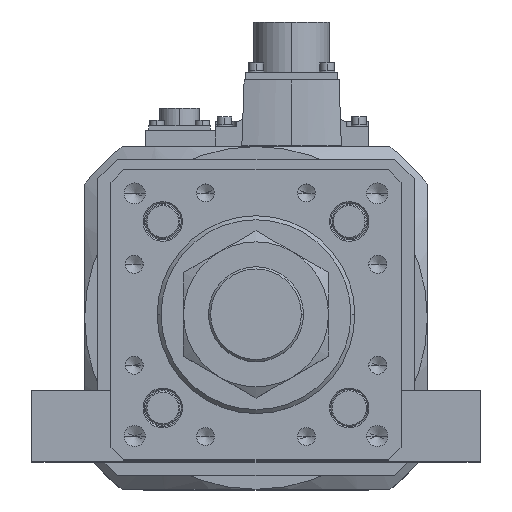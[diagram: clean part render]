
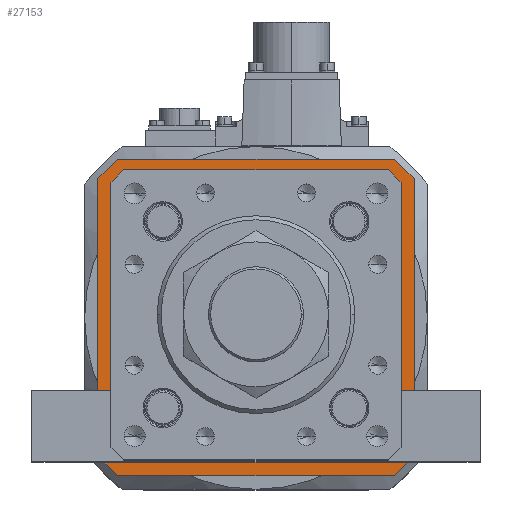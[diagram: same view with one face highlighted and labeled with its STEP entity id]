
A CAD part, top view. The second image highlights one B-rep face of the part: STEP entity #27153.
In plain terms, the highlighted planar face has unit normal (0, 0, 1) as drawn and (0, 0, -1) by its records, which use the part's own axes.
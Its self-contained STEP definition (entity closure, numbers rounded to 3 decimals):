
#186 = VECTOR ( 'NONE', #26505, 1000. ) ;
#686 = EDGE_CURVE ( 'NONE', #18717, #6783, #18429, .T. ) ;
#964 = CARTESIAN_POINT ( 'NONE',  ( -49.593, -53.5, 52. ) ) ;
#1117 = LINE ( 'NONE', #20513, #186 ) ;
#1632 = VECTOR ( 'NONE', #13933, 1000. ) ;
#1815 = ORIENTED_EDGE ( 'NONE', *, *, #19616, .T. ) ;
#1866 = VERTEX_POINT ( 'NONE', #10581 ) ;
#2046 = ORIENTED_EDGE ( 'NONE', *, *, #25381, .T. ) ;
#2291 = CARTESIAN_POINT ( 'NONE',  ( 51.546, 51.546, 52. ) ) ;
#2571 = CARTESIAN_POINT ( 'NONE',  ( -53.5, -49.8, 52. ) ) ;
#3427 = LINE ( 'NONE', #2291, #32094 ) ;
#3434 = DIRECTION ( 'NONE',  ( 0., 0., 1. ) ) ;
#3868 = ORIENTED_EDGE ( 'NONE', *, *, #12443, .F. ) ;
#4225 = DIRECTION ( 'NONE',  ( 1., 0., 0. ) ) ;
#4388 = VECTOR ( 'NONE', #9188, 1000. ) ;
#5421 = VECTOR ( 'NONE', #25141, 1000. ) ;
#5608 = FACE_BOUND ( 'NONE', #38674, .T. ) ;
#5869 = LINE ( 'NONE', #28845, #1632 ) ;
#6084 = CARTESIAN_POINT ( 'NONE',  ( 49.593, 53.5, 52. ) ) ;
#6292 = VERTEX_POINT ( 'NONE', #6570 ) ;
#6457 = CARTESIAN_POINT ( 'NONE',  ( 51.546, -51.546, 52. ) ) ;
#6570 = CARTESIAN_POINT ( 'NONE',  ( -60., 52.5, 52. ) ) ;
#6576 = EDGE_CURVE ( 'NONE', #19108, #18717, #25819, .T. ) ;
#6783 = VERTEX_POINT ( 'NONE', #32563 ) ;
#6833 = VECTOR ( 'NONE', #20873, 1000. ) ;
#6851 = ORIENTED_EDGE ( 'NONE', *, *, #21344, .T. ) ;
#7145 = VERTEX_POINT ( 'NONE', #22284 ) ;
#7194 = VECTOR ( 'NONE', #24340, 1000. ) ;
#7972 = DIRECTION ( 'NONE',  ( 0.707, -0.707, 0. ) ) ;
#8646 = VERTEX_POINT ( 'NONE', #12864 ) ;
#9093 = CARTESIAN_POINT ( 'NONE',  ( -53.5, -49.593, 52. ) ) ;
#9188 = DIRECTION ( 'NONE',  ( -0.707, -0.707, 0. ) ) ;
#9420 = ORIENTED_EDGE ( 'NONE', *, *, #12065, .T. ) ;
#9460 = ORIENTED_EDGE ( 'NONE', *, *, #23754, .T. ) ;
#9495 = EDGE_CURVE ( 'NONE', #8646, #32629, #30002, .T. ) ;
#9983 = LINE ( 'NONE', #31647, #20795 ) ;
#10581 = CARTESIAN_POINT ( 'NONE',  ( -60., -52.5, 52. ) ) ;
#10897 = EDGE_CURVE ( 'NONE', #6292, #1866, #32198, .T. ) ;
#12065 = EDGE_CURVE ( 'NONE', #32629, #31832, #3427, .T. ) ;
#12196 = CARTESIAN_POINT ( 'NONE',  ( -49.8, 53.5, 52. ) ) ;
#12443 = EDGE_CURVE ( 'NONE', #31648, #33289, #9983, .T. ) ;
#12482 = VECTOR ( 'NONE', #17983, 1000. ) ;
#12864 = CARTESIAN_POINT ( 'NONE',  ( 53.5, -49.593, 52. ) ) ;
#13933 = DIRECTION ( 'NONE',  ( -0.707, 0.707, 0. ) ) ;
#14278 = CARTESIAN_POINT ( 'NONE',  ( 53.5, 49.8, 52. ) ) ;
#14565 = DIRECTION ( 'NONE',  ( 0.707, -0.707, 0. ) ) ;
#14972 = VECTOR ( 'NONE', #19646, 1000. ) ;
#15391 = PLANE ( 'NONE',  #24873 ) ;
#15466 = CARTESIAN_POINT ( 'NONE',  ( 60., -52.5, 52. ) ) ;
#15628 = ORIENTED_EDGE ( 'NONE', *, *, #9495, .T. ) ;
#17027 = CARTESIAN_POINT ( 'NONE',  ( -52.5, 60., 52. ) ) ;
#17449 = CARTESIAN_POINT ( 'NONE',  ( -49.593, 53.5, 52. ) ) ;
#17542 = DIRECTION ( 'NONE',  ( 0., -1., 0. ) ) ;
#17694 = LINE ( 'NONE', #26740, #6833 ) ;
#17825 = FACE_OUTER_BOUND ( 'NONE', #37284, .T. ) ;
#17983 = DIRECTION ( 'NONE',  ( 0., -1., 0. ) ) ;
#18408 = DIRECTION ( 'NONE',  ( 0.707, 0.707, 0. ) ) ;
#18412 = LINE ( 'NONE', #23152, #38107 ) ;
#18428 = CARTESIAN_POINT ( 'NONE',  ( 0., 0., 52. ) ) ;
#18429 = LINE ( 'NONE', #28454, #22622 ) ;
#18466 = ORIENTED_EDGE ( 'NONE', *, *, #686, .T. ) ;
#18717 = VERTEX_POINT ( 'NONE', #964 ) ;
#19108 = VERTEX_POINT ( 'NONE', #9093 ) ;
#19155 = ORIENTED_EDGE ( 'NONE', *, *, #37784, .T. ) ;
#19616 = EDGE_CURVE ( 'NONE', #6292, #23674, #17694, .T. ) ;
#19646 = DIRECTION ( 'NONE',  ( 0., 1., 0. ) ) ;
#20172 = CARTESIAN_POINT ( 'NONE',  ( 60., -52.5, 52. ) ) ;
#20513 = CARTESIAN_POINT ( 'NONE',  ( 60., 60., 52. ) ) ;
#20795 = VECTOR ( 'NONE', #4225, 1000. ) ;
#20800 = LINE ( 'NONE', #15466, #4388 ) ;
#20873 = DIRECTION ( 'NONE',  ( 0.707, 0.707, 0. ) ) ;
#21161 = EDGE_CURVE ( 'NONE', #23704, #34269, #1117, .T. ) ;
#21344 = EDGE_CURVE ( 'NONE', #6783, #8646, #27357, .T. ) ;
#22080 = CARTESIAN_POINT ( 'NONE',  ( -52.5, -60., 52. ) ) ;
#22284 = CARTESIAN_POINT ( 'NONE',  ( -53.5, 49.593, 52. ) ) ;
#22392 = ORIENTED_EDGE ( 'NONE', *, *, #24922, .T. ) ;
#22622 = VECTOR ( 'NONE', #31484, 1000. ) ;
#22676 = CARTESIAN_POINT ( 'NONE',  ( -60., 60., 52. ) ) ;
#23152 = CARTESIAN_POINT ( 'NONE',  ( 52.5, 60., 52. ) ) ;
#23178 = VERTEX_POINT ( 'NONE', #25933 ) ;
#23275 = DIRECTION ( 'NONE',  ( -0.707, 0.707, 0. ) ) ;
#23466 = DIRECTION ( 'NONE',  ( -0.707, -0.707, 0. ) ) ;
#23477 = ORIENTED_EDGE ( 'NONE', *, *, #10897, .F. ) ;
#23674 = VERTEX_POINT ( 'NONE', #17027 ) ;
#23704 = VERTEX_POINT ( 'NONE', #20172 ) ;
#23754 = EDGE_CURVE ( 'NONE', #7145, #19108, #30306, .T. ) ;
#24340 = DIRECTION ( 'NONE',  ( -1., 0., 0. ) ) ;
#24869 = VERTEX_POINT ( 'NONE', #17449 ) ;
#24873 = AXIS2_PLACEMENT_3D ( 'NONE', #18428, #3434, #27821 ) ;
#24922 = EDGE_CURVE ( 'NONE', #31832, #24869, #30196, .T. ) ;
#25141 = DIRECTION ( 'NONE',  ( -1., 0., 0. ) ) ;
#25381 = EDGE_CURVE ( 'NONE', #23178, #34269, #18412, .T. ) ;
#25546 = LINE ( 'NONE', #26723, #36365 ) ;
#25819 = LINE ( 'NONE', #32522, #27260 ) ;
#25933 = CARTESIAN_POINT ( 'NONE',  ( 52.5, 60., 52. ) ) ;
#26505 = DIRECTION ( 'NONE',  ( 0., 1., 0. ) ) ;
#26723 = CARTESIAN_POINT ( 'NONE',  ( -51.546, 51.546, 52. ) ) ;
#26740 = CARTESIAN_POINT ( 'NONE',  ( -60., 52.5, 52. ) ) ;
#26886 = ORIENTED_EDGE ( 'NONE', *, *, #6576, .T. ) ;
#27153 = ADVANCED_FACE ( 'NONE', ( #5608, #17825 ), #15391, .F. ) ;
#27260 = VECTOR ( 'NONE', #14565, 1000. ) ;
#27344 = CARTESIAN_POINT ( 'NONE',  ( 60., 52.5, 52. ) ) ;
#27357 = LINE ( 'NONE', #6457, #34891 ) ;
#27821 = DIRECTION ( 'NONE',  ( 1., 0., 0. ) ) ;
#28454 = CARTESIAN_POINT ( 'NONE',  ( 49.8, -53.5, 52. ) ) ;
#28845 = CARTESIAN_POINT ( 'NONE',  ( -52.5, -60., 52. ) ) ;
#28887 = CARTESIAN_POINT ( 'NONE',  ( 52.5, -60., 52. ) ) ;
#29880 = EDGE_CURVE ( 'NONE', #23178, #23674, #31726, .T. ) ;
#30002 = LINE ( 'NONE', #14278, #14972 ) ;
#30196 = LINE ( 'NONE', #12196, #7194 ) ;
#30306 = LINE ( 'NONE', #2571, #30693 ) ;
#30693 = VECTOR ( 'NONE', #17542, 1000. ) ;
#30998 = ORIENTED_EDGE ( 'NONE', *, *, #29880, .F. ) ;
#31319 = CARTESIAN_POINT ( 'NONE',  ( 53.5, 49.593, 52. ) ) ;
#31484 = DIRECTION ( 'NONE',  ( 1., 0., 0. ) ) ;
#31647 = CARTESIAN_POINT ( 'NONE',  ( -60., -60., 52. ) ) ;
#31648 = VERTEX_POINT ( 'NONE', #22080 ) ;
#31726 = LINE ( 'NONE', #22676, #5421 ) ;
#31832 = VERTEX_POINT ( 'NONE', #6084 ) ;
#32094 = VECTOR ( 'NONE', #23275, 1000. ) ;
#32198 = LINE ( 'NONE', #35808, #12482 ) ;
#32522 = CARTESIAN_POINT ( 'NONE',  ( -51.546, -51.546, 52. ) ) ;
#32563 = CARTESIAN_POINT ( 'NONE',  ( 49.593, -53.5, 52. ) ) ;
#32629 = VERTEX_POINT ( 'NONE', #31319 ) ;
#33289 = VERTEX_POINT ( 'NONE', #28887 ) ;
#34269 = VERTEX_POINT ( 'NONE', #27344 ) ;
#34891 = VECTOR ( 'NONE', #18408, 1000. ) ;
#35739 = ORIENTED_EDGE ( 'NONE', *, *, #38874, .T. ) ;
#35808 = CARTESIAN_POINT ( 'NONE',  ( -60., 60., 52. ) ) ;
#36365 = VECTOR ( 'NONE', #23466, 1000. ) ;
#36903 = ORIENTED_EDGE ( 'NONE', *, *, #37647, .T. ) ;
#37284 = EDGE_LOOP ( 'NONE', ( #3868, #36903, #23477, #1815, #30998, #2046, #37931, #35739 ) ) ;
#37647 = EDGE_CURVE ( 'NONE', #31648, #1866, #5869, .T. ) ;
#37784 = EDGE_CURVE ( 'NONE', #24869, #7145, #25546, .T. ) ;
#37931 = ORIENTED_EDGE ( 'NONE', *, *, #21161, .F. ) ;
#38107 = VECTOR ( 'NONE', #7972, 1000. ) ;
#38674 = EDGE_LOOP ( 'NONE', ( #9420, #22392, #19155, #9460, #26886, #18466, #6851, #15628 ) ) ;
#38874 = EDGE_CURVE ( 'NONE', #23704, #33289, #20800, .T. ) ;
